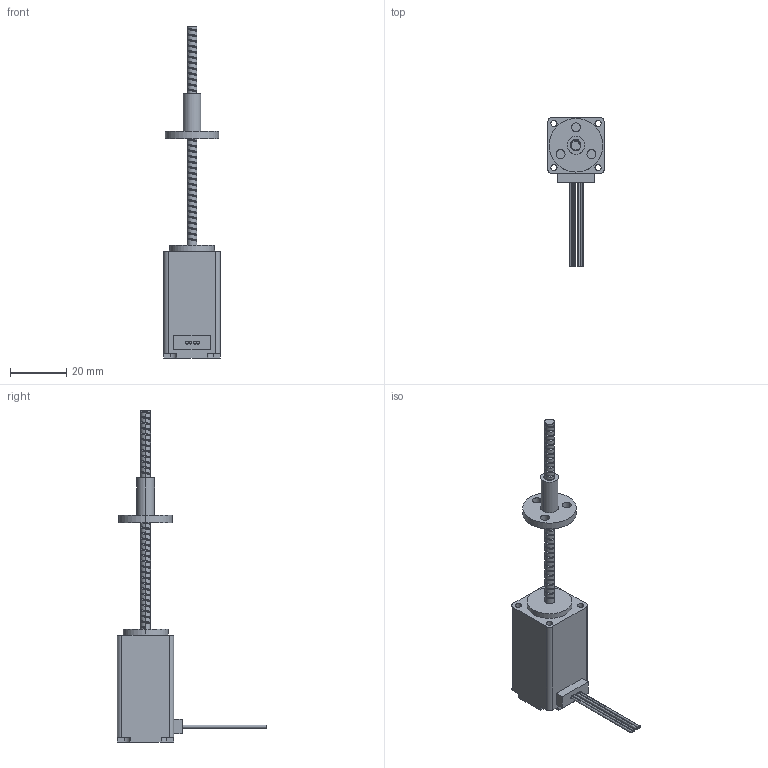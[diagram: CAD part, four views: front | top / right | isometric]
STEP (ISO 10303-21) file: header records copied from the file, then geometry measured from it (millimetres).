
FILE_DESCRIPTION(('FreeCAD Model'),'2;1');
FILE_NAME( 'C:/Users/ck/Documents/NAS02/Ny mappe/Ok/MSL082AEx-4L3N00.5x.step', '2018-07-27T14:14:52',('Author'),(''), 'Open CASCADE STEP processor 6.8','FreeCAD','Unknown');
FILE_SCHEMA(('AUTOMOTIVE_DESIGN_CC2 { 1 2 10303 214 -1 1 5 4 }'));
Length unit declared in the file: millimetre
Products named in the file (2): ASSEMBLY
Assembly tree (1 placements, depth 2):
  ASSEMBLY
    (unnamed)
Bounding box: 20 x 53 x 118 mm (x, y, z)
Volume: 16715.6 mm3; surface area: 7354.2 mm2
Topology: 1 solids, 1 shells, 139 faces, 385 edges, 256 vertices
Faces by surface type: cylinder 103, plane 33, bspline 3
Entity records: 37906 total; most frequent: CARTESIAN_POINT 31595, DIRECTION 778, ORIENTED_EDGE 770, PCURVE 770, DEFINITIONAL_REPRESENTATION 770, B_SPLINE_CURVE_WITH_KNOTS 575, EDGE_CURVE 385, SURFACE_CURVE 385
